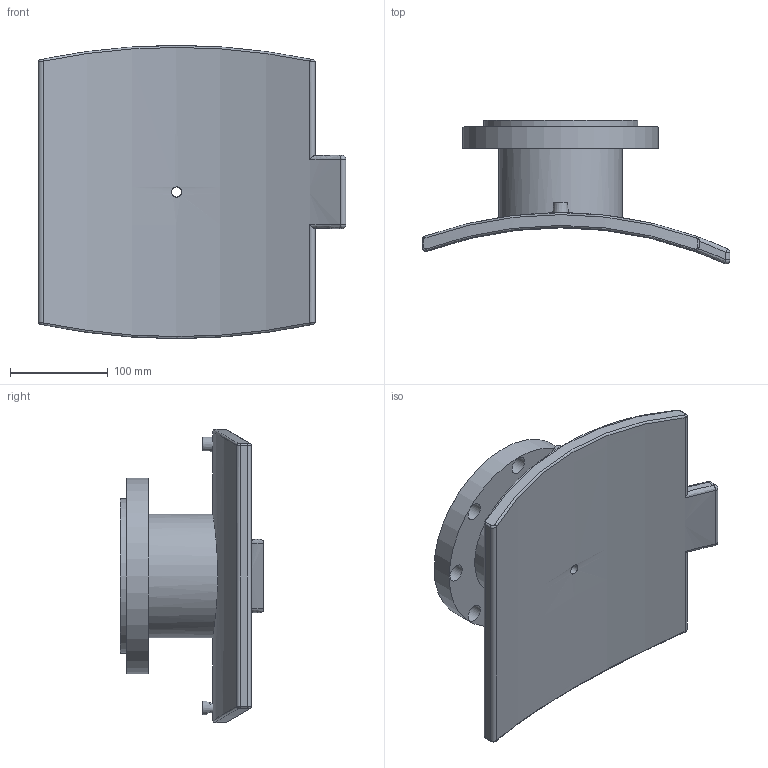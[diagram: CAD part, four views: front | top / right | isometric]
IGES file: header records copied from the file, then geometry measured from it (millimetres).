
Global section: file name: 495904710100T.ipt; native system: Autodesk Inventor 2019; preprocessor: unknown; author: KIM; date: 20210721.132718; units: millimetre
Bounding box: 315 x 147.15 x 300 mm (x, y, z)
Volume: 2174979.9 mm3; surface area: 314972.8 mm2
Topology: 2 solids, 2 shells, 75 faces, 164 edges, 103 vertices
Faces by surface type: cylinder 24, revolution 17, plane 16, bspline 12, sphere 4, cone 2
Full cylindrical faces by diameter (mm): 4 x2, 16 x1, 126.4 x1, 158 x1, 200 x1
